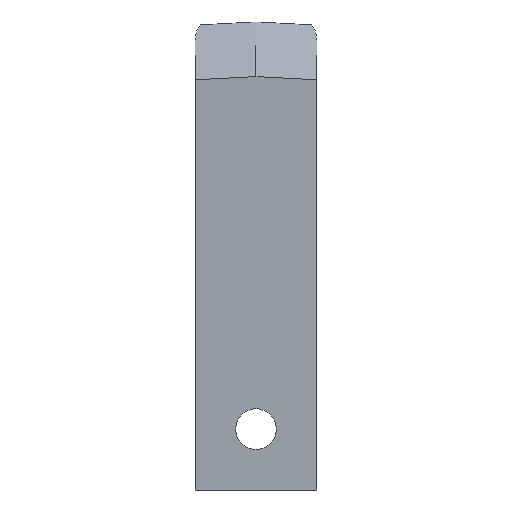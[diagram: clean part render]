
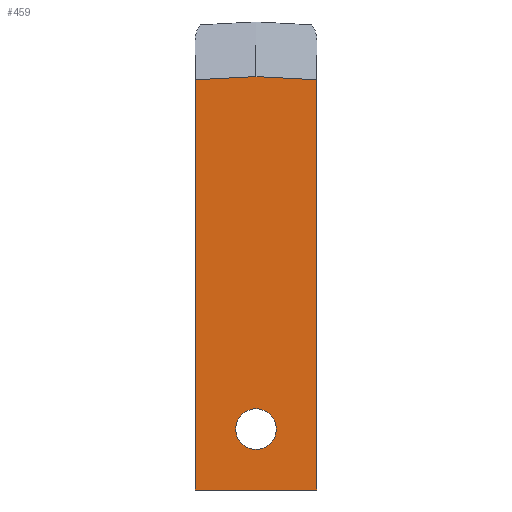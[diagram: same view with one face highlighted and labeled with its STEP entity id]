
A CAD part, front view. The second image highlights one B-rep face of the part: STEP entity #459.
In plain terms, the highlighted planar face has unit normal (0, -1, 0).
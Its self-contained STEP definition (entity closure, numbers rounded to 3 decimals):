
#198=AXIS2_PLACEMENT_3D('Circle Axis2P3D',#196,#197,$) ;
#224=AXIS2_PLACEMENT_3D('Circle Axis2P3D',#222,#223,$) ;
#427=AXIS2_PLACEMENT_3D('Plane Axis2P3D',#424,#425,#426) ;
#196=CARTESIAN_POINT('Axis2P3D Location',(0.,0.,-15.05)) ;
#200=CARTESIAN_POINT('Vertex',(1.,0.,-15.05)) ;
#202=CARTESIAN_POINT('Vertex',(-1.,0.,-15.05)) ;
#222=CARTESIAN_POINT('Axis2P3D Location',(0.,0.,-15.05)) ;
#239=CARTESIAN_POINT('Line Origine',(7.,0.,-18.05)) ;
#243=CARTESIAN_POINT('Vertex',(3.,0.,-18.05)) ;
#245=CARTESIAN_POINT('Vertex',(-3.,0.,-18.05)) ;
#396=CARTESIAN_POINT('Line Origine',(3.,0.,-7.948)) ;
#400=CARTESIAN_POINT('Vertex',(3.,0.,2.154)) ;
#424=CARTESIAN_POINT('Axis2P3D Location',(3.,0.,0.)) ;
#429=CARTESIAN_POINT('Line Origine',(1.5,0.,2.233)) ;
#433=CARTESIAN_POINT('Vertex',(0.,0.,2.312)) ;
#436=CARTESIAN_POINT('Line Origine',(-1.5,0.,2.233)) ;
#440=CARTESIAN_POINT('Vertex',(-3.,0.,2.154)) ;
#443=CARTESIAN_POINT('Line Origine',(-3.,0.,-7.948)) ;
#197=DIRECTION('Axis2P3D Direction',(0.,1.,-0.)) ;
#223=DIRECTION('Axis2P3D Direction',(0.,1.,-0.)) ;
#240=DIRECTION('Vector Direction',(1.,0.,0.)) ;
#397=DIRECTION('Vector Direction',(0.,0.,-1.)) ;
#425=DIRECTION('Axis2P3D Direction',(0.,1.,-0.)) ;
#426=DIRECTION('Axis2P3D XDirection',(-1.,0.,0.)) ;
#430=DIRECTION('Vector Direction',(0.999,0.,-0.052)) ;
#437=DIRECTION('Vector Direction',(0.999,0.,0.052)) ;
#444=DIRECTION('Vector Direction',(0.,0.,-1.)) ;
#241=VECTOR('Line Direction',#240,1.) ;
#398=VECTOR('Line Direction',#397,1.) ;
#431=VECTOR('Line Direction',#430,1.) ;
#438=VECTOR('Line Direction',#437,1.) ;
#445=VECTOR('Line Direction',#444,1.) ;
#449=ORIENTED_EDGE('',*,*,#435,.F.) ;
#450=ORIENTED_EDGE('',*,*,#442,.F.) ;
#451=ORIENTED_EDGE('',*,*,#447,.T.) ;
#452=ORIENTED_EDGE('',*,*,#247,.F.) ;
#453=ORIENTED_EDGE('',*,*,#402,.F.) ;
#456=ORIENTED_EDGE('',*,*,#204,.T.) ;
#457=ORIENTED_EDGE('',*,*,#226,.T.) ;
#458=FACE_BOUND('',#455,.T.) ;
#459=ADVANCED_FACE('\X2\96F64EF651E04F554F53\X0\',(#454,#458),#428,.F.) ;
#199=CIRCLE('generated circle',#198,1.) ;
#225=CIRCLE('generated circle',#224,1.) ;
#204=EDGE_CURVE('',#201,#203,#199,.T.) ;
#226=EDGE_CURVE('',#203,#201,#225,.T.) ;
#247=EDGE_CURVE('',#244,#246,#242,.F.) ;
#402=EDGE_CURVE('',#401,#244,#399,.T.) ;
#435=EDGE_CURVE('',#434,#401,#432,.T.) ;
#442=EDGE_CURVE('',#441,#434,#439,.T.) ;
#447=EDGE_CURVE('',#441,#246,#446,.T.) ;
#448=EDGE_LOOP('',(#449,#450,#451,#452,#453)) ;
#455=EDGE_LOOP('',(#456,#457)) ;
#454=FACE_OUTER_BOUND('',#448,.T.) ;
#242=LINE('Line',#239,#241) ;
#399=LINE('Line',#396,#398) ;
#432=LINE('Line',#429,#431) ;
#439=LINE('Line',#436,#438) ;
#446=LINE('Line',#443,#445) ;
#428=PLANE('Plane',#427) ;
#201=VERTEX_POINT('',#200) ;
#203=VERTEX_POINT('',#202) ;
#244=VERTEX_POINT('',#243) ;
#246=VERTEX_POINT('',#245) ;
#401=VERTEX_POINT('',#400) ;
#434=VERTEX_POINT('',#433) ;
#441=VERTEX_POINT('',#440) ;
